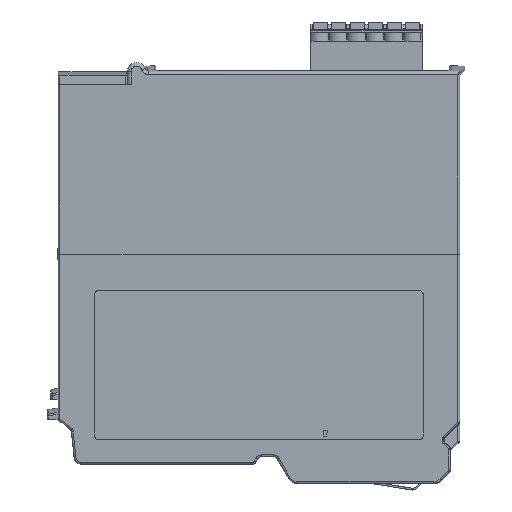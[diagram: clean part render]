
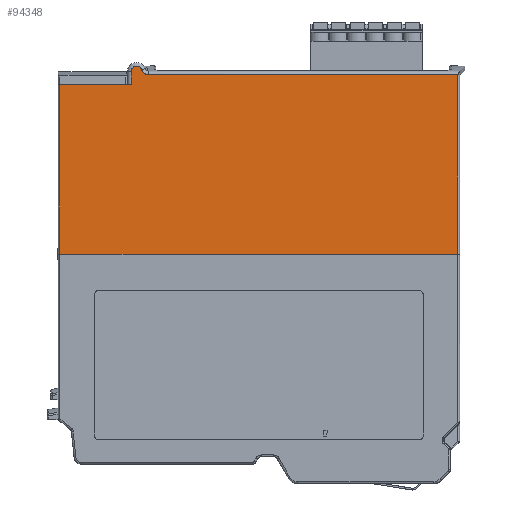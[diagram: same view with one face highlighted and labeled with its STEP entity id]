
A CAD part, left-side view. The second image highlights one B-rep face of the part: STEP entity #94348.
In plain terms, the highlighted planar face has unit normal (-1, 0, 0).
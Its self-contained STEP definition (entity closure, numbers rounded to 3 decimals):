
#62 = EDGE_LOOP ( 'NONE', ( #47695, #47139, #46625, #134304, #47504, #47666, #47804, #134388 ) ) ;
#286 = EDGE_CURVE ( 'NONE', #56422, #56504, #43840, .T. ) ;
#594 = EDGE_CURVE ( 'NONE', #56271, #56278, #44883, .T. ) ;
#5732 = CARTESIAN_POINT ( 'NONE',  ( -44.456, 60.955, -22.5 ) ) ;
#7498 = CARTESIAN_POINT ( 'NONE',  ( -44.456, -48.045, -22.5 ) ) ;
#15657 = VECTOR ( 'NONE', #65448, 1000. ) ;
#15742 = VECTOR ( 'NONE', #70340, 1000. ) ;
#15749 = VECTOR ( 'NONE', #65452, 1000. ) ;
#15972 = CIRCLE ( 'NONE', #17241, 1.5 ) ;
#16224 = VECTOR ( 'NONE', #65442, 1000. ) ;
#17241 = AXIS2_PLACEMENT_3D ( 'NONE', #70240, #70241, #70242 ) ;
#23307 = CARTESIAN_POINT ( 'NONE',  ( -44.456, -48.045, 26.666 ) ) ;
#23310 = CARTESIAN_POINT ( 'NONE',  ( -44.456, 38.545, 28.012 ) ) ;
#23313 = CARTESIAN_POINT ( 'NONE',  ( -44.456, 36.644, 26.666 ) ) ;
#23454 = CARTESIAN_POINT ( 'NONE',  ( -44.456, 41.455, 27.5 ) ) ;
#23463 = CARTESIAN_POINT ( 'NONE',  ( -44.456, 60.955, 24. ) ) ;
#23551 = CARTESIAN_POINT ( 'NONE',  ( -44.456, 41.455, 24. ) ) ;
#29186 = EDGE_CURVE ( 'NONE', #119147, #118435, #65436, .T. ) ;
#29191 = EDGE_CURVE ( 'NONE', #56431, #119147, #65438, .T. ) ;
#29194 = EDGE_CURVE ( 'NONE', #118435, #56271, #65444, .T. ) ;
#29802 = EDGE_CURVE ( 'NONE', #56278, #56274, #35237, .T. ) ;
#29825 = EDGE_CURVE ( 'NONE', #56274, #56422, #15972, .T. ) ;
#29843 = EDGE_CURVE ( 'NONE', #56431, #56504, #70329, .T. ) ;
#35237 = B_SPLINE_CURVE_WITH_KNOTS ( 'NONE', 3,
 ( #70150, #70142, #70121, #70153, #70155, #70156, #70158, #70160 ),
 .UNSPECIFIED., .F., .F.,
 ( 4, 2, 2, 4 ),
 ( 0., 0.001, 0.001, 0.002 ),
 .UNSPECIFIED. ) ;
#40144 = AXIS2_PLACEMENT_3D ( 'NONE', #125118, #125119, #125121 ) ;
#43840 = LINE ( 'NONE', #43858, #71795 ) ;
#43858 = CARTESIAN_POINT ( 'NONE',  ( -44.456, 41.455, 27.5 ) ) ;
#43863 = DIRECTION ( 'NONE',  ( 0., 0., -1. ) ) ;
#44883 = LINE ( 'NONE', #44886, #121871 ) ;
#44886 = CARTESIAN_POINT ( 'NONE',  ( -44.456, 500006.455, 26.666 ) ) ;
#44888 = DIRECTION ( 'NONE',  ( 0., 1., 0. ) ) ;
#46625 = ORIENTED_EDGE ( 'NONE', *, *, #29802, .T. ) ;
#47139 = ORIENTED_EDGE ( 'NONE', *, *, #594, .T. ) ;
#47504 = ORIENTED_EDGE ( 'NONE', *, *, #286, .T. ) ;
#47666 = ORIENTED_EDGE ( 'NONE', *, *, #29843, .F. ) ;
#47695 = ORIENTED_EDGE ( 'NONE', *, *, #29194, .T. ) ;
#47804 = ORIENTED_EDGE ( 'NONE', *, *, #29191, .T. ) ;
#56271 = VERTEX_POINT ( 'NONE', #23307 ) ;
#56274 = VERTEX_POINT ( 'NONE', #23310 ) ;
#56278 = VERTEX_POINT ( 'NONE', #23313 ) ;
#56422 = VERTEX_POINT ( 'NONE', #23454 ) ;
#56431 = VERTEX_POINT ( 'NONE', #23463 ) ;
#56504 = VERTEX_POINT ( 'NONE', #23551 ) ;
#65430 = CARTESIAN_POINT ( 'NONE',  ( -44.456, -48.545, -22.5 ) ) ;
#65436 = LINE ( 'NONE', #65430, #16224 ) ;
#65437 = CARTESIAN_POINT ( 'NONE',  ( -44.456, -48.045, 27.5 ) ) ;
#65438 = LINE ( 'NONE', #65447, #15657 ) ;
#65442 = DIRECTION ( 'NONE',  ( 0., -1., 0. ) ) ;
#65444 = LINE ( 'NONE', #65437, #15749 ) ;
#65447 = CARTESIAN_POINT ( 'NONE',  ( -44.456, 60.955, 27.5 ) ) ;
#65448 = DIRECTION ( 'NONE',  ( 0., 0., -1. ) ) ;
#65452 = DIRECTION ( 'NONE',  ( 0., 0., 1. ) ) ;
#70121 = CARTESIAN_POINT ( 'NONE',  ( -44.456, 37.056, 26.698 ) ) ;
#70142 = CARTESIAN_POINT ( 'NONE',  ( -44.456, 36.853, 26.666 ) ) ;
#70150 = CARTESIAN_POINT ( 'NONE',  ( -44.456, 36.644, 26.666 ) ) ;
#70153 = CARTESIAN_POINT ( 'NONE',  ( -44.456, 37.451, 26.825 ) ) ;
#70155 = CARTESIAN_POINT ( 'NONE',  ( -44.456, 37.636, 26.919 ) ) ;
#70156 = CARTESIAN_POINT ( 'NONE',  ( -44.456, 38.142, 27.278 ) ) ;
#70158 = CARTESIAN_POINT ( 'NONE',  ( -44.456, 38.402, 27.621 ) ) ;
#70160 = CARTESIAN_POINT ( 'NONE',  ( -44.456, 38.545, 28.012 ) ) ;
#70240 = CARTESIAN_POINT ( 'NONE',  ( -44.456, 39.955, 27.5 ) ) ;
#70241 = DIRECTION ( 'NONE',  ( -1., 0., 0. ) ) ;
#70242 = DIRECTION ( 'NONE',  ( 0., 0., -1. ) ) ;
#70329 = LINE ( 'NONE', #70338, #15742 ) ;
#70338 = CARTESIAN_POINT ( 'NONE',  ( -44.456, 61.455, 24. ) ) ;
#70340 = DIRECTION ( 'NONE',  ( 0., -1., 0. ) ) ;
#71795 = VECTOR ( 'NONE', #43863, 1000. ) ;
#94348 = ADVANCED_FACE ( 'NONE', ( #125092 ), #125055, .F. ) ;
#118435 = VERTEX_POINT ( 'NONE', #7498 ) ;
#119147 = VERTEX_POINT ( 'NONE', #5732 ) ;
#121871 = VECTOR ( 'NONE', #44888, 1000. ) ;
#125055 = PLANE ( 'NONE',  #40144 ) ;
#125092 = FACE_OUTER_BOUND ( 'NONE', #62, .T. ) ;
#125118 = CARTESIAN_POINT ( 'NONE',  ( -44.456, -48.545, 27.5 ) ) ;
#125119 = DIRECTION ( 'NONE',  ( 1., 0., 0. ) ) ;
#125121 = DIRECTION ( 'NONE',  ( 0., 0., -1. ) ) ;
#134304 = ORIENTED_EDGE ( 'NONE', *, *, #29825, .T. ) ;
#134388 = ORIENTED_EDGE ( 'NONE', *, *, #29186, .T. ) ;
